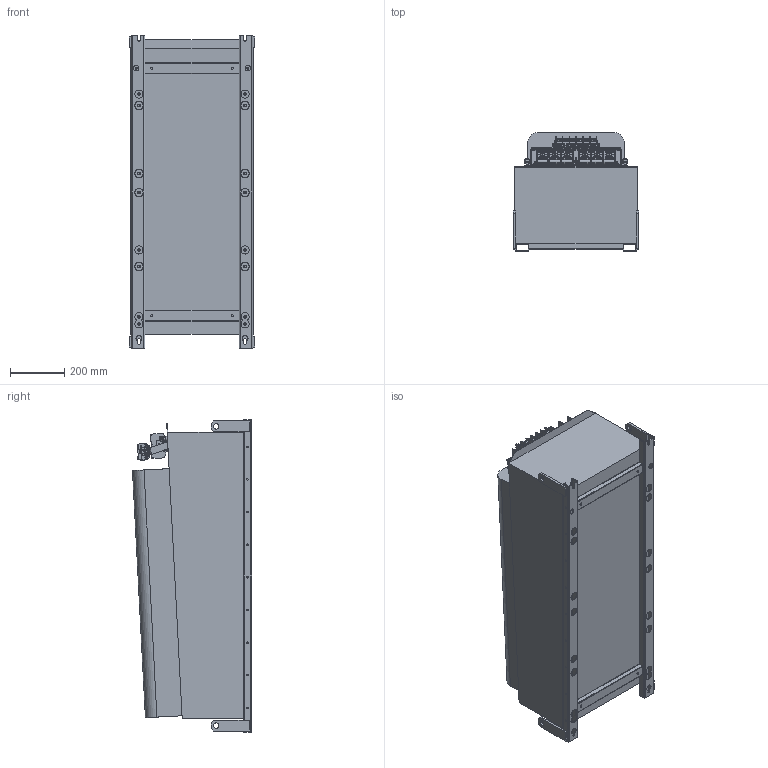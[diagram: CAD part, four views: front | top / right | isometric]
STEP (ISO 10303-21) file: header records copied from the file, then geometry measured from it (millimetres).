
FILE_DESCRIPTION((''),'2;1');
FILE_NAME('C:\SapWorkDir\Inventor\P01\H\EcosineEVO-H-E0XXJXX.stp','2016-09-30T09:51:31',('erika.jenzer'),(''),'Autodesk Inventor 2013','Autodesk Inventor 2013','');
FILE_SCHEMA(('AUTOMOTIVE_DESIGN { 1 0 10303 214 1 1 1 1 }'));
Length unit declared in the file: millimetre
Products named in the file (24): 153731_3D MODEL GLORIA FRAME H; 153732_BASE FRAME H WITH INSERTS; 153757_BASE FRAME H; 112665_INSERT BOLT FH M8X25; 112624_INSERT BOLT FH M5X12; 153736_HOUSING H WITH INSERTS; 112722_INSERT NUT M10; 122821_EARTH-SCREW M10X35; DIN EN 1661 M5; 153750_TERMINAL MODULE H; 156519_RAIL WITH INSERTS; 153645_DIN RAIL TH35-7.5 H; 153997_DKB 300; 153988_DKB10; 156473_END COVER DKB10E; 156470_SS9C; 154204_TDJ MODULE H; 154203_DIN RAIL TH35-7.5 H-J; 154141_DKB 100; 156476_END COVER DKB100E-A; 160161_SS9B; 156882_TERMINAL SUPPORT H WITH INSERTS; 156880_TERMINAL SUPPORT H; 163172_GLORIA H STP DUMMY
Assembly tree (63 placements, depth 4):
  153731_3D MODEL GLORIA FRAME H
    153732_BASE FRAME H WITH INSERTS
      153757_BASE FRAME H
      112665_INSERT BOLT FH M8X25  x16
      112624_INSERT BOLT FH M5X12  x2
    153736_HOUSING H WITH INSERTS
      112722_INSERT NUT M10  x2
    122821_EARTH-SCREW M10X35  x2
    DIN EN 1661 M5  x5
    153750_TERMINAL MODULE H
      156519_RAIL WITH INSERTS
        153645_DIN RAIL TH35-7.5 H
        112624_INSERT BOLT FH M5X12  x3
      153997_DKB 300  x6
      153988_DKB10  x2
      156473_END COVER DKB10E
      156470_SS9C  x2
    154204_TDJ MODULE H
      154203_DIN RAIL TH35-7.5 H-J
      154141_DKB 100  x6
      156476_END COVER DKB100E-A
      160161_SS9B  x2
    156882_TERMINAL SUPPORT H WITH INSERTS
      156880_TERMINAL SUPPORT H
      112624_INSERT BOLT FH M5X12  x2
    163172_GLORIA H STP DUMMY
Bounding box: 462 x 438.01 x 1150 mm (x, y, z)
Volume: 165024601.2 mm3; surface area: 3289846.9 mm2
Topology: 59 solids, 59 shells, 4804 faces, 13306 edges, 8739 vertices
Faces by surface type: plane 3130, cylinder 1365, cone 178, bspline 58, torus 45, revolution 16, sphere 12
Full cylindrical faces by diameter (mm): 1.5 x16, 2.9 x4, 3.2 x4, 3.7 x4, 4 x28, 4.134 x5, 4.2 x7, 5 x18, 5.4 x18, 5.5 x5, 6 x4, 6.206 x7, 6.5 x9, 7 x16, 7.132 x12, 7.3 x2, 8 x42, 8.376 x2, 8.5 x12, 9 x14, 9.188 x2, 9.275 x16, 9.8 x28, 10 x4, 10.5 x2, 10.698 x12, 14.158 x2, 15.4 x2, 16 x12, 16.5 x2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
Entity records: 55981 total; most frequent: CARTESIAN_POINT 11877, ORIENTED_EDGE 8846, DIRECTION 8841, EDGE_CURVE 4423, VECTOR 3057, LINE 3057, VERTEX_POINT 3013, AXIS2_PLACEMENT_3D 2888
